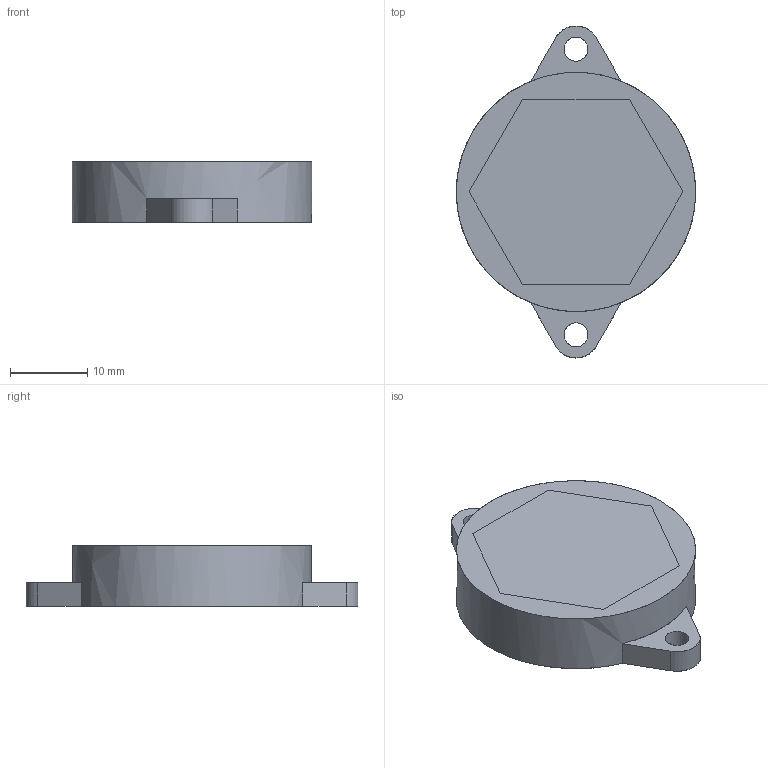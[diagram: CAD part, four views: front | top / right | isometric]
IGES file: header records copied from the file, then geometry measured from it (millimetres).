
Global section: file name: D:\PROGETTI_LOCALE\CLIENTE ROGNA\DSD-0542.igs; native system: NX V7.5; preprocessor: SIEMENS PLM Software NX 7.5; date: 20130510.121819; units: millimetre
Bounding box: 31 x 43 x 7.9 mm (x, y, z)
Surface area: 4030.6 mm2 (no closed solid volume)
Topology: 0 solids, 0 shells, 28 faces, 208 edges, 218 vertices
Faces by surface type: bspline 28
